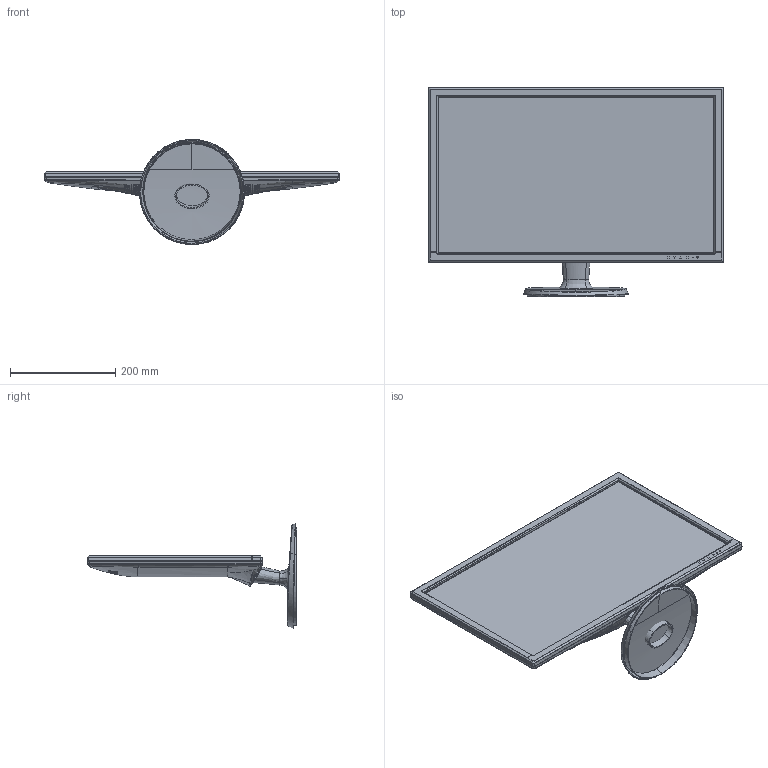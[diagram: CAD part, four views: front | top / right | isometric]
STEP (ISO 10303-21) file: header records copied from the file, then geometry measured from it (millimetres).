
FILE_DESCRIPTION (( 'STEP AP214' ), '1' );
FILE_NAME ('997-7346.STEP', '2016-04-12T21:39:53', ( '' ), ( '' ), 'SwSTEP 2.0', 'SolidWorks 2016', '' );
FILE_SCHEMA (( 'AUTOMOTIVE_DESIGN' ));
Length unit declared in the file: millimetre
Products named in the file (1): 997-7346
Bounding box: 561.27 x 398.21 x 199.31 mm (x, y, z)
Volume: 705992.9 mm3; surface area: 941983.5 mm2
Topology: 16 solids, 16 shells, 3330 faces, 9439 edges, 6127 vertices
Faces by surface type: plane 2013, cylinder 950, bspline 313, cone 54
Entity records: 200808 total; most frequent: CARTESIAN_POINT 83053, ORIENTED_EDGE 18862, DIRECTION 13892, EDGE_CURVE 9431, VERTEX_POINT 6127, LINE 5702, VECTOR 5702, AXIS2_PLACEMENT_3D 4095
